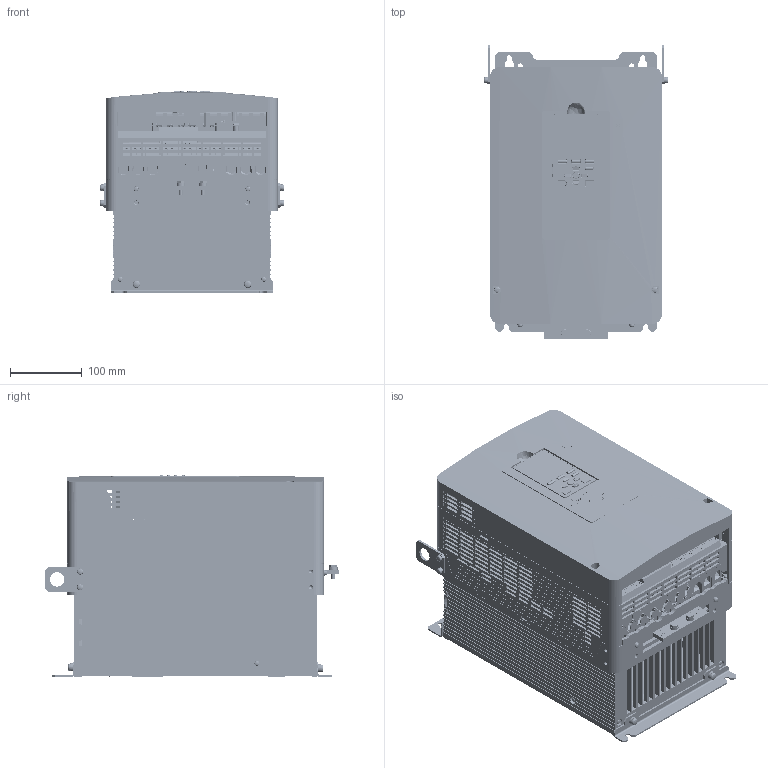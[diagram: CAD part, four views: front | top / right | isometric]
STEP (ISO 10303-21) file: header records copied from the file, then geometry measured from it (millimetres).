
FILE_DESCRIPTION((''),'2;1');
FILE_NAME('71617-GA70_C_2110_AB_B_Q_A_ASM','2017-06-08T',('t-hara'),('YASKAWA ELECTRIC CORCORATION'),'PRO/ENGINEER BY PARAMETRIC TECHNOLOGY CORPORATION, 2015110','PRO/ENGINEER BY PARAMETRIC TECHNOLOGY CORPORATION, 2015110','');
FILE_SCHEMA(('AUTOMOTIVE_DESIGN { 1 0 10303 214 1 1 1 1 }'));
Products named in the file (18): GA70_2110_BODY; GA70_2110_MTG_PLATE_BOTTOM; GEM_OPEN_SCREW_M6X14; GA70_2110_MTG_PLATE_TOP; GA70_2110_FAN; GA70_2110_FAN_COVER; GEM_OPEN_SCREW_M4X25; GA70_ALL_TB_TYPEB; GEM_OPEN_SCREW_M3P5X6; GEM_OPEN_SCREW_M3X15; GA70_ALL_LED; GA70_2110_IP20_COVER; GA70_2110_FP; GA70_ALL_CONNECTOR; GA70_ALL_USB_COVER; GA70_ALL_LCD_OPERATOR; GA70_2110_SCREW_GND; 71617-GA70_C_2110_AB_B_Q_A_ASM
Assembly tree (23 placements, depth 2):
  71617-GA70_C_2110_AB_B_Q_A_ASM
    GA70_2110_BODY
    GA70_2110_MTG_PLATE_BOTTOM
    GEM_OPEN_SCREW_M6X14  x4
    GA70_2110_MTG_PLATE_TOP
    GA70_2110_FAN  x2
    GA70_2110_FAN_COVER
    GEM_OPEN_SCREW_M4X25  x2
    GA70_ALL_TB_TYPEB
    GEM_OPEN_SCREW_M3P5X6
    GEM_OPEN_SCREW_M3X15
    GA70_ALL_LED
    GA70_2110_IP20_COVER
    GA70_2110_FP
    GA70_ALL_CONNECTOR
    GA70_ALL_USB_COVER
    GA70_ALL_LCD_OPERATOR
    GA70_2110_SCREW_GND  x2
Bounding box: 257.6 x 410 x 281.5 mm (x, y, z)
Volume: 10995906.2 mm3; surface area: 1520352.1 mm2
Topology: 24 solids, 54 shells, 14398 faces, 39020 edges, 25316 vertices
Faces by surface type: plane 10910, cylinder 2472, cone 345, torus 257, bspline 237, sphere 90, extrusion 87
Entity records: 545055 total; most frequent: CARTESIAN_POINT 101641, ORIENTED_EDGE 74248, DIRECTION 66643, EDGE_CURVE 37124, VECTOR 30341, LINE 30278, VERTEX_POINT 24182, AXIS2_PLACEMENT_3D 18151
